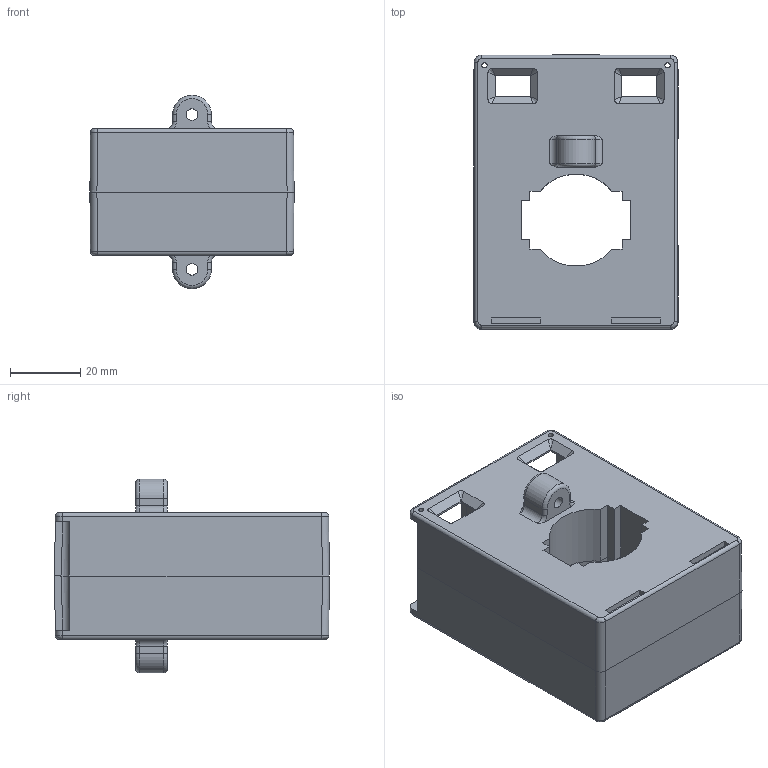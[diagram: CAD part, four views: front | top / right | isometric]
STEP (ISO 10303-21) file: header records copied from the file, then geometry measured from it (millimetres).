
FILE_DESCRIPTION(/* description */ (''),/* implementation_level */ '2;1');
FILE_NAME(/* name */ '图纸A1.stp',/* time_stamp */ '2024-10-05T10:14:44+08:00',/* author */ (''),/* organization */ (''),/* preprocessor_version */ 'ST-DEVELOPER v18.102',/* originating_system */ 'SIEMENS PLM Software NX2206.1700',/* authorisation */ '');
FILE_SCHEMA (('AUTOMOTIVE_DESIGN { 1 0 10303 214 3 1 1 1 }'));
Length unit declared in the file: millimetre
Products named in the file (1): 图纸A1_MW2026C4E4E3uylq
Bounding box: 58 x 78 x 55 mm (x, y, z)
Volume: 44202.2 mm3; surface area: 45085.2 mm2
Topology: 2 solids, 2 shells, 616 faces, 1720 edges, 1116 vertices
Faces by surface type: plane 486, cylinder 86, bspline 28, torus 12, extrusion 4
Full cylindrical faces by diameter (mm): 1.5 x4, 1.7 x4, 3.3 x2, 4.2 x2
Entity records: 20343 total; most frequent: CARTESIAN_POINT 4561, ORIENTED_EDGE 3376, DIRECTION 3002, EDGE_CURVE 1688, VECTOR 1392, LINE 1388, VERTEX_POINT 1112, AXIS2_PLACEMENT_3D 805
